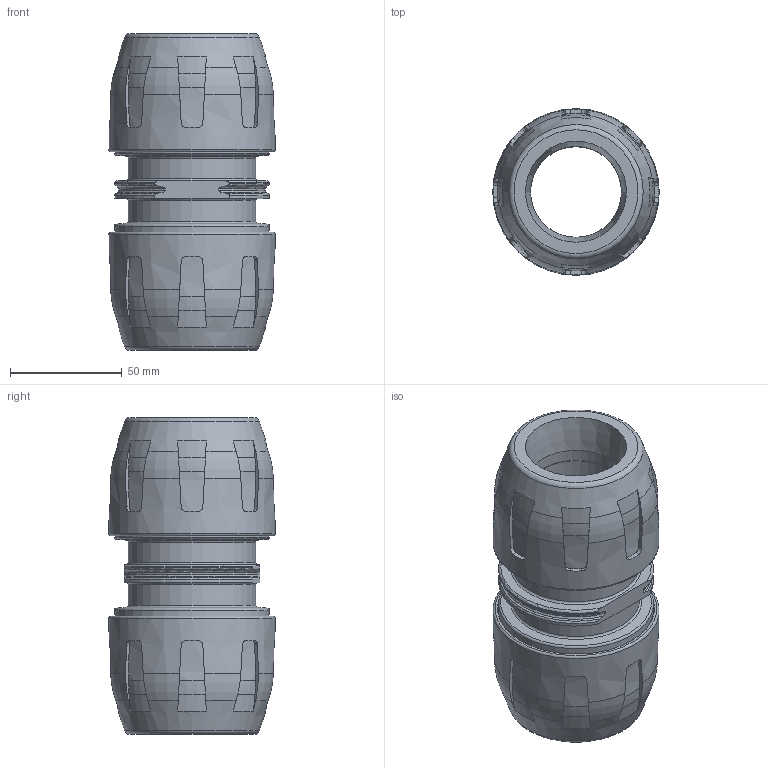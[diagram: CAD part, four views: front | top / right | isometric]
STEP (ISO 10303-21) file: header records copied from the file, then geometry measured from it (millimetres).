
FILE_DESCRIPTION( ( 'STEP AP214' ), '1' );
FILE_NAME( ' ', ' ', ( ' ' ), ( ' ' ), 'PSStep 11.0', 'VISI 17.0', ' ' );
FILE_SCHEMA( ( 'AUTOMOTIVE_DESIGN { 1 0 10303 214 1 1 1 1 }' ) );
Length unit declared in the file: millimetre
Products named in the file (3): 1; 2; 3
Bounding box: 74.56 x 74.56 x 141.92 mm (x, y, z)
Volume: 334109.3 mm3; surface area: 92814.8 mm2
Topology: 3 solids, 3 shells, 429 faces, 1213 edges, 804 vertices
Faces by surface type: plane 214, cone 96, cylinder 57, bspline 32, torus 30
Full cylindrical faces by diameter (mm): 40.7 x1, 40.9 x2, 57 x2, 58.9 x2, 59.8 x4, 64.1 x2, 65.4 x2, 69.4 x2, 70.4 x2
Entity records: 18790 total; most frequent: CARTESIAN_POINT 5026, ORIENTED_EDGE 2280, DIRECTION 1984, EDGE_CURVE 1140, AXIS2_PLACEMENT_3D 856, VERTEX_POINT 782, EDGE_LOOP 500, FACE_OUTER_BOUND 468
